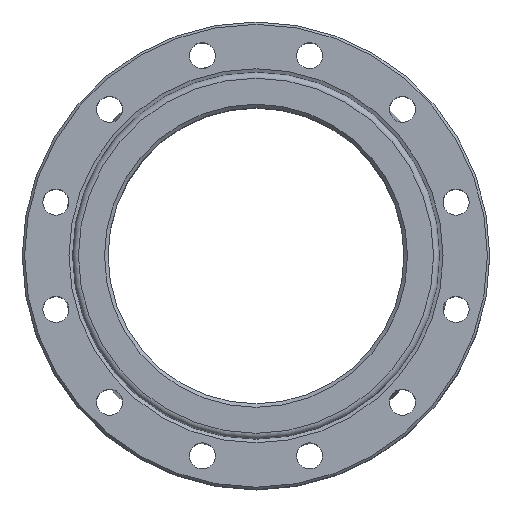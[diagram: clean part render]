
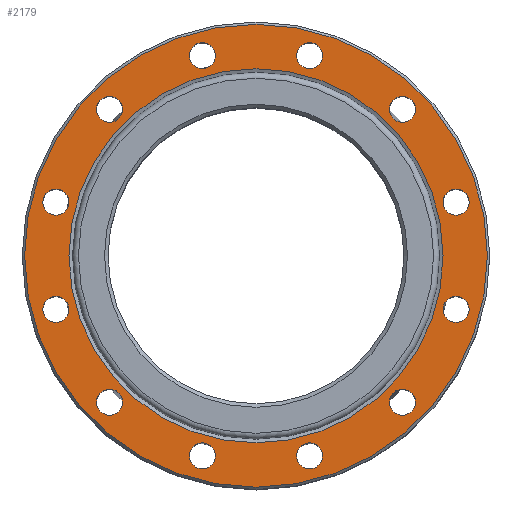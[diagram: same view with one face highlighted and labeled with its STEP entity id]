
A CAD part, top view. The second image highlights one B-rep face of the part: STEP entity #2179.
In plain terms, the highlighted planar face has unit normal (0, 0, 1).
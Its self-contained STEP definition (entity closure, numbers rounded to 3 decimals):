
#174=FACE_BOUND('',#428,.T.);
#175=FACE_BOUND('',#429,.T.);
#176=FACE_BOUND('',#430,.T.);
#177=FACE_BOUND('',#431,.T.);
#178=FACE_BOUND('',#432,.T.);
#179=FACE_BOUND('',#433,.T.);
#180=FACE_BOUND('',#434,.T.);
#181=FACE_BOUND('',#435,.T.);
#182=FACE_BOUND('',#436,.T.);
#183=FACE_BOUND('',#437,.T.);
#184=FACE_BOUND('',#438,.T.);
#185=FACE_BOUND('',#439,.T.);
#186=FACE_BOUND('',#440,.T.);
#195=PLANE('',#2364);
#273=FACE_OUTER_BOUND('',#427,.T.);
#427=EDGE_LOOP('',(#1488));
#428=EDGE_LOOP('',(#1489));
#429=EDGE_LOOP('',(#1490));
#430=EDGE_LOOP('',(#1491));
#431=EDGE_LOOP('',(#1492));
#432=EDGE_LOOP('',(#1493));
#433=EDGE_LOOP('',(#1494));
#434=EDGE_LOOP('',(#1495));
#435=EDGE_LOOP('',(#1496));
#436=EDGE_LOOP('',(#1497));
#437=EDGE_LOOP('',(#1498));
#438=EDGE_LOOP('',(#1499));
#439=EDGE_LOOP('',(#1500));
#440=EDGE_LOOP('',(#1501));
#789=CIRCLE('',#2363,195.5);
#790=CIRCLE('',#2365,11.);
#791=CIRCLE('',#2366,11.);
#792=CIRCLE('',#2367,11.);
#793=CIRCLE('',#2368,11.);
#794=CIRCLE('',#2369,11.);
#795=CIRCLE('',#2370,11.);
#796=CIRCLE('',#2371,11.);
#797=CIRCLE('',#2372,11.);
#798=CIRCLE('',#2373,11.);
#799=CIRCLE('',#2374,11.);
#800=CIRCLE('',#2375,11.);
#801=CIRCLE('',#2376,11.);
#802=CIRCLE('',#2377,158.);
#950=VERTEX_POINT('',#3278);
#951=VERTEX_POINT('',#3282);
#952=VERTEX_POINT('',#3284);
#953=VERTEX_POINT('',#3286);
#954=VERTEX_POINT('',#3288);
#955=VERTEX_POINT('',#3290);
#956=VERTEX_POINT('',#3292);
#957=VERTEX_POINT('',#3294);
#958=VERTEX_POINT('',#3296);
#959=VERTEX_POINT('',#3298);
#960=VERTEX_POINT('',#3300);
#961=VERTEX_POINT('',#3302);
#962=VERTEX_POINT('',#3304);
#963=VERTEX_POINT('',#3306);
#1162=EDGE_CURVE('',#950,#950,#789,.T.);
#1163=EDGE_CURVE('',#951,#951,#790,.T.);
#1164=EDGE_CURVE('',#952,#952,#791,.T.);
#1165=EDGE_CURVE('',#953,#953,#792,.T.);
#1166=EDGE_CURVE('',#954,#954,#793,.T.);
#1167=EDGE_CURVE('',#955,#955,#794,.T.);
#1168=EDGE_CURVE('',#956,#956,#795,.T.);
#1169=EDGE_CURVE('',#957,#957,#796,.T.);
#1170=EDGE_CURVE('',#958,#958,#797,.T.);
#1171=EDGE_CURVE('',#959,#959,#798,.T.);
#1172=EDGE_CURVE('',#960,#960,#799,.T.);
#1173=EDGE_CURVE('',#961,#961,#800,.T.);
#1174=EDGE_CURVE('',#962,#962,#801,.T.);
#1175=EDGE_CURVE('',#963,#963,#802,.T.);
#1488=ORIENTED_EDGE('',*,*,#1162,.F.);
#1489=ORIENTED_EDGE('',*,*,#1163,.F.);
#1490=ORIENTED_EDGE('',*,*,#1164,.F.);
#1491=ORIENTED_EDGE('',*,*,#1165,.F.);
#1492=ORIENTED_EDGE('',*,*,#1166,.F.);
#1493=ORIENTED_EDGE('',*,*,#1167,.F.);
#1494=ORIENTED_EDGE('',*,*,#1168,.F.);
#1495=ORIENTED_EDGE('',*,*,#1169,.F.);
#1496=ORIENTED_EDGE('',*,*,#1170,.F.);
#1497=ORIENTED_EDGE('',*,*,#1171,.F.);
#1498=ORIENTED_EDGE('',*,*,#1172,.F.);
#1499=ORIENTED_EDGE('',*,*,#1173,.F.);
#1500=ORIENTED_EDGE('',*,*,#1174,.F.);
#1501=ORIENTED_EDGE('',*,*,#1175,.T.);
#2179=ADVANCED_FACE('',(#273,#174,#175,#176,#177,#178,#179,#180,#181,#182,
#183,#184,#185,#186),#195,.F.);
#2363=AXIS2_PLACEMENT_3D('',#3280,#2681,#2682);
#2364=AXIS2_PLACEMENT_3D('',#3281,#2683,#2684);
#2365=AXIS2_PLACEMENT_3D('',#3283,#2685,#2686);
#2366=AXIS2_PLACEMENT_3D('',#3285,#2687,#2688);
#2367=AXIS2_PLACEMENT_3D('',#3287,#2689,#2690);
#2368=AXIS2_PLACEMENT_3D('',#3289,#2691,#2692);
#2369=AXIS2_PLACEMENT_3D('',#3291,#2693,#2694);
#2370=AXIS2_PLACEMENT_3D('',#3293,#2695,#2696);
#2371=AXIS2_PLACEMENT_3D('',#3295,#2697,#2698);
#2372=AXIS2_PLACEMENT_3D('',#3297,#2699,#2700);
#2373=AXIS2_PLACEMENT_3D('',#3299,#2701,#2702);
#2374=AXIS2_PLACEMENT_3D('',#3301,#2703,#2704);
#2375=AXIS2_PLACEMENT_3D('',#3303,#2705,#2706);
#2376=AXIS2_PLACEMENT_3D('',#3305,#2707,#2708);
#2377=AXIS2_PLACEMENT_3D('',#3307,#2709,#2710);
#2681=DIRECTION('center_axis',(0.,0.,-1.));
#2682=DIRECTION('ref_axis',(-1.,0.,0.));
#2683=DIRECTION('center_axis',(0.,0.,-1.));
#2684=DIRECTION('ref_axis',(-1.,0.,0.));
#2685=DIRECTION('center_axis',(0.,0.,1.));
#2686=DIRECTION('ref_axis',(1.,0.,0.));
#2687=DIRECTION('center_axis',(0.,0.,1.));
#2688=DIRECTION('ref_axis',(1.,0.,0.));
#2689=DIRECTION('center_axis',(0.,0.,1.));
#2690=DIRECTION('ref_axis',(1.,0.,0.));
#2691=DIRECTION('center_axis',(0.,0.,1.));
#2692=DIRECTION('ref_axis',(1.,0.,0.));
#2693=DIRECTION('center_axis',(0.,0.,1.));
#2694=DIRECTION('ref_axis',(1.,0.,0.));
#2695=DIRECTION('center_axis',(0.,0.,1.));
#2696=DIRECTION('ref_axis',(1.,0.,0.));
#2697=DIRECTION('center_axis',(0.,0.,1.));
#2698=DIRECTION('ref_axis',(1.,0.,0.));
#2699=DIRECTION('center_axis',(0.,0.,1.));
#2700=DIRECTION('ref_axis',(1.,0.,0.));
#2701=DIRECTION('center_axis',(0.,0.,1.));
#2702=DIRECTION('ref_axis',(1.,0.,0.));
#2703=DIRECTION('center_axis',(0.,0.,1.));
#2704=DIRECTION('ref_axis',(1.,0.,0.));
#2705=DIRECTION('center_axis',(0.,0.,1.));
#2706=DIRECTION('ref_axis',(1.,0.,0.));
#2707=DIRECTION('center_axis',(0.,0.,1.));
#2708=DIRECTION('ref_axis',(1.,0.,0.));
#2709=DIRECTION('center_axis',(0.,0.,-1.));
#2710=DIRECTION('ref_axis',(0.,1.,0.));
#3278=CARTESIAN_POINT('',(195.5,0.,111.));
#3280=CARTESIAN_POINT('Origin',(0.,0.,111.));
#3281=CARTESIAN_POINT('Origin',(0.,0.,111.));
#3282=CARTESIAN_POINT('',(-180.037,45.293,111.));
#3283=CARTESIAN_POINT('Origin',(-169.037,45.293,111.));
#3284=CARTESIAN_POINT('',(-180.037,-45.293,111.));
#3285=CARTESIAN_POINT('Origin',(-169.037,-45.293,111.));
#3286=CARTESIAN_POINT('',(-134.744,-123.744,111.));
#3287=CARTESIAN_POINT('Origin',(-123.744,-123.744,111.));
#3288=CARTESIAN_POINT('',(-56.293,-169.037,111.));
#3289=CARTESIAN_POINT('Origin',(-45.293,-169.037,111.));
#3290=CARTESIAN_POINT('',(34.293,-169.037,111.));
#3291=CARTESIAN_POINT('Origin',(45.293,-169.037,111.));
#3292=CARTESIAN_POINT('',(112.744,-123.744,111.));
#3293=CARTESIAN_POINT('Origin',(123.744,-123.744,111.));
#3294=CARTESIAN_POINT('',(158.037,-45.293,111.));
#3295=CARTESIAN_POINT('Origin',(169.037,-45.293,111.));
#3296=CARTESIAN_POINT('',(158.037,45.293,111.));
#3297=CARTESIAN_POINT('Origin',(169.037,45.293,111.));
#3298=CARTESIAN_POINT('',(112.744,123.744,111.));
#3299=CARTESIAN_POINT('Origin',(123.744,123.744,111.));
#3300=CARTESIAN_POINT('',(34.293,169.037,111.));
#3301=CARTESIAN_POINT('Origin',(45.293,169.037,111.));
#3302=CARTESIAN_POINT('',(-56.293,169.037,111.));
#3303=CARTESIAN_POINT('Origin',(-45.293,169.037,111.));
#3304=CARTESIAN_POINT('',(-134.744,123.744,111.));
#3305=CARTESIAN_POINT('Origin',(-123.744,123.744,111.));
#3306=CARTESIAN_POINT('',(0.,-158.,111.));
#3307=CARTESIAN_POINT('Origin',(0.,0.,111.));
